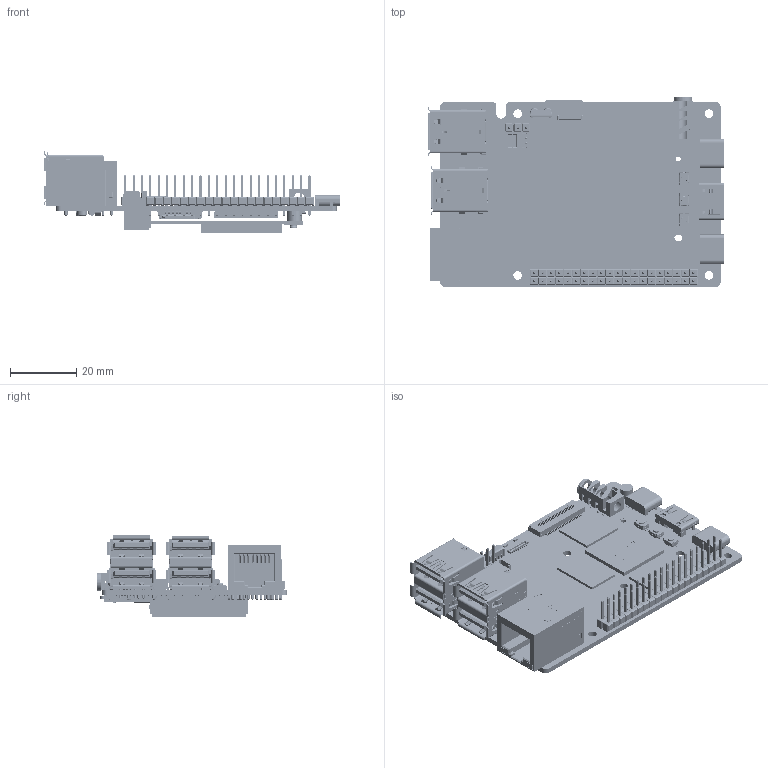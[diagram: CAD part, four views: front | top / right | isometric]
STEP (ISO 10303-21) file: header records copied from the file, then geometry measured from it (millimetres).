
FILE_DESCRIPTION (( 'STEP AP214' ), '1' );
FILE_NAME ('LubanCat 4-PCB 賦凳恅璃.STEP', '2023-09-12T02:58:35', ( '' ), ( '' ), 'SwSTEP 2.0', 'SolidWorks 2021', '' );
FILE_SCHEMA (( 'AUTOMOTIVE_DESIGN' ));
Length unit declared in the file: millimetre
Products named in the file (23): PCIE-52P56H; LubanCat 4-PCB 賦凳恅璃; AXE630124; USB2.0邧脯橙晚 錨璃; wifi耀輸酗; x05a20l30t; M2.5X4.5X3X1.5X.15 爾諉肣翐; HR911105A; LubanCat 4-PCB-20230612; 嫉儂釱赽; SD縐; IRM-v838M3 綻俋泂え; 3PIN; TYPE-C 譫釱 16P 泂え 錨璃; USB3.0+2.0橙晚釱赽 錨璃; TS-1088-AR02016; ZH 2P 脣璃1.5MM; MCS-104; 1.25X2pin; MINI_HDMI; 聆泂LED; 20X2; SIM笢縐-20230612
Assembly tree (29 placements, depth 2):
  LubanCat 4-PCB 賦凳恅璃
    LubanCat 4-PCB-20230612
    USB2.0邧脯橙晚 錨璃
    USB3.0+2.0橙晚釱赽 錨璃
    HR911105A
    TYPE-C 譫釱 16P 泂え 錨璃  x2
    嫉儂釱赽
    x05a20l30t  x2
    AXE630124  x3
    IRM-v838M3 綻俋泂え
    1.25X2pin
    3PIN
    ZH 2P 脣璃1.5MM
    聆泂LED  x2
    20X2
    PCIE-52P56H
    M2.5X4.5X3X1.5X.15 爾諉肣翐
    wifi耀輸酗
    MCS-104
    MINI_HDMI
    SD縐
    SIM笢縐-20230612
    TS-1088-AR02016  x3
Bounding box: 89.55 x 57.53 x 24.59 mm (x, y, z)
Volume: 21832.8 mm3; surface area: 32986.2 mm2
Topology: 111 solids, 202 shells, 13359 faces, 36705 edges, 23726 vertices
Faces by surface type: plane 9848, cylinder 2748, bspline 653, cone 85, sphere 19, torus 6
Entity records: 430027 total; most frequent: CARTESIAN_POINT 83361, ORIENTED_EDGE 55616, DIRECTION 47767, EDGE_CURVE 27918, VECTOR 21747, LINE 21747, VERTEX_POINT 18144, AXIS2_PLACEMENT_3D 13010
